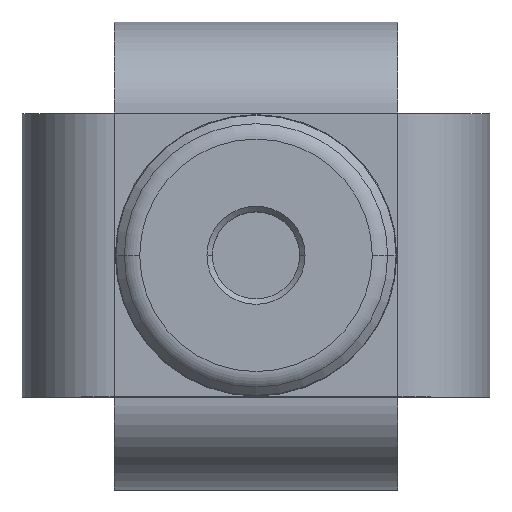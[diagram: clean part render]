
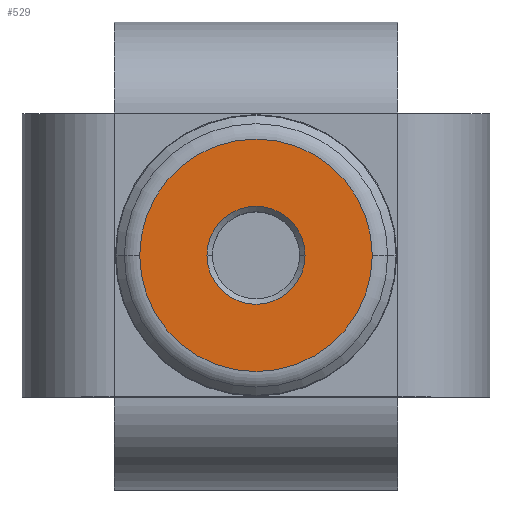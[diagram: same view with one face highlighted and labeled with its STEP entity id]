
A CAD part, top view. The second image highlights one B-rep face of the part: STEP entity #529.
In plain terms, the highlighted planar face has unit normal (0, 0, 1).
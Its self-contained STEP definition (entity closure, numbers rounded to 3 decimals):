
#26 = DIRECTION ( 'NONE',  ( 0., 0., -1. ) ) ;
#27 = DIRECTION ( 'NONE',  ( 1., 0., 0. ) ) ;
#30 = CARTESIAN_POINT ( 'NONE',  ( 0., 0., 25. ) ) ;
#329 = AXIS2_PLACEMENT_3D ( 'NONE', #2227, #2228, #2231 ) ;
#373 = AXIS2_PLACEMENT_3D ( 'NONE', #30, #26, #27 ) ;
#406 = AXIS2_PLACEMENT_3D ( 'NONE', #1063, #1064, #1065 ) ;
#529 = ADVANCED_FACE ( 'NONE', ( #4368, #4421 ), #2458, .F. ) ;
#1063 = CARTESIAN_POINT ( 'NONE',  ( 0., 0., 25. ) ) ;
#1064 = DIRECTION ( 'NONE',  ( 0., 0., -1. ) ) ;
#1065 = DIRECTION ( 'NONE',  ( 1., 0., 0. ) ) ;
#1346 = CARTESIAN_POINT ( 'NONE',  ( 10.672, 0., 25. ) ) ;
#1367 = CARTESIAN_POINT ( 'NONE',  ( 4.5, 0., 25. ) ) ;
#1428 = CARTESIAN_POINT ( 'NONE',  ( -10.672, 0., 25. ) ) ;
#1511 = CARTESIAN_POINT ( 'NONE',  ( -4.5, 0., 25. ) ) ;
#1998 = EDGE_LOOP ( 'NONE', ( #4024, #4030 ) ) ;
#1999 = EDGE_LOOP ( 'NONE', ( #4027, #4029 ) ) ;
#2048 = EDGE_CURVE ( 'NONE', #3541, #3425, #4247, .T. ) ;
#2133 = EDGE_CURVE ( 'NONE', #3425, #3541, #3230, .T. ) ;
#2227 = CARTESIAN_POINT ( 'NONE',  ( 0., 0., 25. ) ) ;
#2228 = DIRECTION ( 'NONE',  ( 0., 0., -1. ) ) ;
#2231 = DIRECTION ( 'NONE',  ( 1., 0., 0. ) ) ;
#2458 = PLANE ( 'NONE',  #329 ) ;
#2514 = AXIS2_PLACEMENT_3D ( 'NONE', #2789, #2790, #2791 ) ;
#2539 = AXIS2_PLACEMENT_3D ( 'NONE', #3050, #3051, #3052 ) ;
#2789 = CARTESIAN_POINT ( 'NONE',  ( 0., 0., 25. ) ) ;
#2790 = DIRECTION ( 'NONE',  ( 0., 0., -1. ) ) ;
#2791 = DIRECTION ( 'NONE',  ( -1., 0., 0. ) ) ;
#3050 = CARTESIAN_POINT ( 'NONE',  ( 0., 0., 25. ) ) ;
#3051 = DIRECTION ( 'NONE',  ( 0., 0., -1. ) ) ;
#3052 = DIRECTION ( 'NONE',  ( -1., 0., 0. ) ) ;
#3230 = CIRCLE ( 'NONE', #406, 10.672 ) ;
#3357 = CIRCLE ( 'NONE', #2514, 4.5 ) ;
#3425 = VERTEX_POINT ( 'NONE', #1346 ) ;
#3448 = VERTEX_POINT ( 'NONE', #1367 ) ;
#3541 = VERTEX_POINT ( 'NONE', #1428 ) ;
#4024 = ORIENTED_EDGE ( 'NONE', *, *, #2133, .F. ) ;
#4027 = ORIENTED_EDGE ( 'NONE', *, *, #4833, .T. ) ;
#4029 = ORIENTED_EDGE ( 'NONE', *, *, #4886, .T. ) ;
#4030 = ORIENTED_EDGE ( 'NONE', *, *, #2048, .F. ) ;
#4247 = CIRCLE ( 'NONE', #373, 10.672 ) ;
#4368 = FACE_BOUND ( 'NONE', #1999, .T. ) ;
#4421 = FACE_OUTER_BOUND ( 'NONE', #1998, .T. ) ;
#4523 = VERTEX_POINT ( 'NONE', #1511 ) ;
#4833 = EDGE_CURVE ( 'NONE', #3448, #4523, #3357, .T. ) ;
#4886 = EDGE_CURVE ( 'NONE', #4523, #3448, #5013, .T. ) ;
#5013 = CIRCLE ( 'NONE', #2539, 4.5 ) ;
